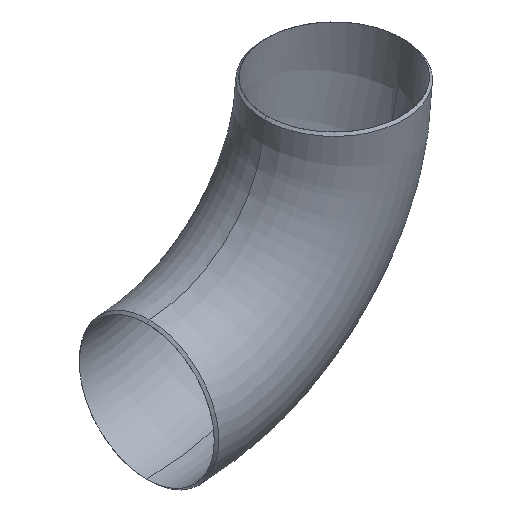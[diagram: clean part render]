
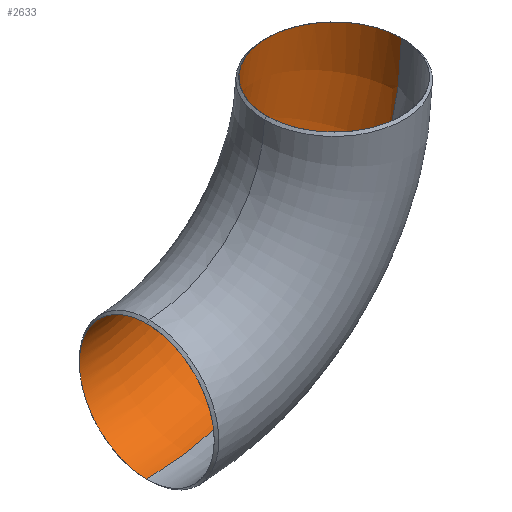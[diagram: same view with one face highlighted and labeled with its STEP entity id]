
A CAD part, isometric view. The second image highlights one B-rep face of the part: STEP entity #2633.
In plain terms, the highlighted toroidal (fillet/blend) face has major radius 304.8 mm and minor radius 109.55 mm.
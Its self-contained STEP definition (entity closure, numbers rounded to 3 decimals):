
#163 = CIRCLE ( 'NONE', #2334, 109.55 ) ;
#218 = DIRECTION ( 'NONE',  ( 0., -1., 0. ) ) ;
#319 = DIRECTION ( 'NONE',  ( 0., 0., -1. ) ) ;
#472 = AXIS2_PLACEMENT_3D ( 'NONE', #4177, #3503, #3169 ) ;
#536 = CARTESIAN_POINT ( 'NONE',  ( 414.35, 0., 0. ) ) ;
#929 = CARTESIAN_POINT ( 'NONE',  ( 304.8, 0., 0. ) ) ;
#970 = AXIS2_PLACEMENT_3D ( 'NONE', #984, #4019, #2357 ) ;
#984 = CARTESIAN_POINT ( 'NONE',  ( 0., 0., 0. ) ) ;
#1260 = AXIS2_PLACEMENT_3D ( 'NONE', #929, #2277, #1345 ) ;
#1290 = EDGE_CURVE ( 'NONE', #2327, #3730, #3466, .T. ) ;
#1332 = FACE_OUTER_BOUND ( 'NONE', #3372, .T. ) ;
#1345 = DIRECTION ( 'NONE',  ( 1., 0., 0. ) ) ;
#1590 = DIRECTION ( 'NONE',  ( 0., 0., -1. ) ) ;
#1985 = CARTESIAN_POINT ( 'NONE',  ( 0., 0., -414.35 ) ) ;
#2066 = CARTESIAN_POINT ( 'NONE',  ( 0., 0., -304.8 ) ) ;
#2076 = EDGE_CURVE ( 'NONE', #2327, #2707, #163, .T. ) ;
#2099 = AXIS2_PLACEMENT_3D ( 'NONE', #3304, #218, #1590 ) ;
#2202 = VERTEX_POINT ( 'NONE', #2695 ) ;
#2277 = DIRECTION ( 'NONE',  ( 0., 0., 1. ) ) ;
#2327 = VERTEX_POINT ( 'NONE', #1985 ) ;
#2334 = AXIS2_PLACEMENT_3D ( 'NONE', #2066, #3442, #319 ) ;
#2357 = DIRECTION ( 'NONE',  ( 0., 0., -1. ) ) ;
#2633 = ADVANCED_FACE ( 'NONE', ( #1332 ), #4033, .F. ) ;
#2695 = CARTESIAN_POINT ( 'NONE',  ( 195.25, 0., 0. ) ) ;
#2707 = VERTEX_POINT ( 'NONE', #4146 ) ;
#2877 = ORIENTED_EDGE ( 'NONE', *, *, #2076, .F. ) ;
#2989 = CIRCLE ( 'NONE', #472, 195.25 ) ;
#2997 = ORIENTED_EDGE ( 'NONE', *, *, #4336, .T. ) ;
#3169 = DIRECTION ( 'NONE',  ( 0., 0., -1. ) ) ;
#3304 = CARTESIAN_POINT ( 'NONE',  ( 0., 0., 0. ) ) ;
#3372 = EDGE_LOOP ( 'NONE', ( #2877, #4386, #2997, #3667 ) ) ;
#3442 = DIRECTION ( 'NONE',  ( 1., 0., 0. ) ) ;
#3466 = CIRCLE ( 'NONE', #2099, 414.35 ) ;
#3478 = EDGE_CURVE ( 'NONE', #2707, #2202, #2989, .T. ) ;
#3503 = DIRECTION ( 'NONE',  ( 0., -1., 0. ) ) ;
#3667 = ORIENTED_EDGE ( 'NONE', *, *, #3478, .F. ) ;
#3730 = VERTEX_POINT ( 'NONE', #536 ) ;
#4019 = DIRECTION ( 'NONE',  ( 0., -1., 0. ) ) ;
#4033 = TOROIDAL_SURFACE ( 'NONE', #970, 304.8, 109.55 ) ;
#4104 = CIRCLE ( 'NONE', #1260, 109.55 ) ;
#4146 = CARTESIAN_POINT ( 'NONE',  ( 0., 0., -195.25 ) ) ;
#4177 = CARTESIAN_POINT ( 'NONE',  ( 0., 0., 0. ) ) ;
#4336 = EDGE_CURVE ( 'NONE', #3730, #2202, #4104, .T. ) ;
#4386 = ORIENTED_EDGE ( 'NONE', *, *, #1290, .T. ) ;
